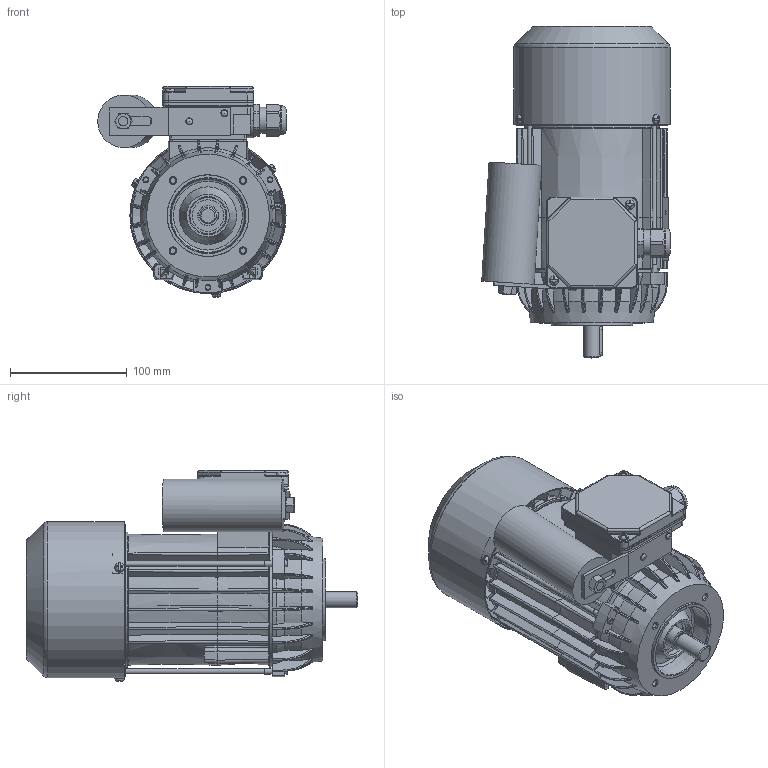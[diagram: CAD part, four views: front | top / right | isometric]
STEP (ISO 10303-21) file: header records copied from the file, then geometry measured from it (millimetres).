
FILE_DESCRIPTION(/* description */ ('Unknown'),/* implementation_level */ '2;1');
FILE_NAME(/* name */ '3SSIEK71-4B2',/* time_stamp */ '2024-06-19T09:07:16+02:00',/* author */ ('Unknown'),/* organization */ ('Unknown'),/* preprocessor_version */ 'ST-DEVELOPER v16.7',/* originating_system */ 'Solid Edge',/* authorisation */ 'Unknown');
FILE_SCHEMA (('AUTOMOTIVE_DESIGN {1 0 10303 214 3 1 1}'));
Products named in the file (1): Czêœæ4
Bounding box: 161.3 x 283.98 x 180.57 mm (x, y, z)
Volume: 841811 mm3; surface area: 452706.3 mm2
Topology: 2 solids, 2 shells, 2656 faces, 7228 edges, 4604 vertices
Faces by surface type: plane 1055, cylinder 735, bspline 409, torus 230, cone 201, sphere 26
Full cylindrical faces by diameter (mm): 2 x2, 2.4 x2, 3 x1, 3.7 x4, 3.8 x4, 4 x4, 4.3 x2, 4.4 x3, 4.5 x2, 4.8 x2, 4.917 x4, 5 x8, 5.1 x3, 5.5 x3, 6 x2, 6.5 x1, 7 x1, 8 x7, 13.599 x1, 13.999 x1, 15.898 x1, 16.098 x1, 16.498 x1, 16.998 x2, 17.4 x2, 21.998 x2, 22.3 x1, 22.498 x1, 22.648 x1, 22.998 x1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
Entity records: 111135 total; most frequent: CARTESIAN_POINT 30346, ORIENTED_EDGE 13690, DIRECTION 11885, EDGE_CURVE 6845, AXIS2_PLACEMENT_3D 4556, VERTEX_POINT 4470, EDGE_LOOP 3089, FACE_BOUND 3089
